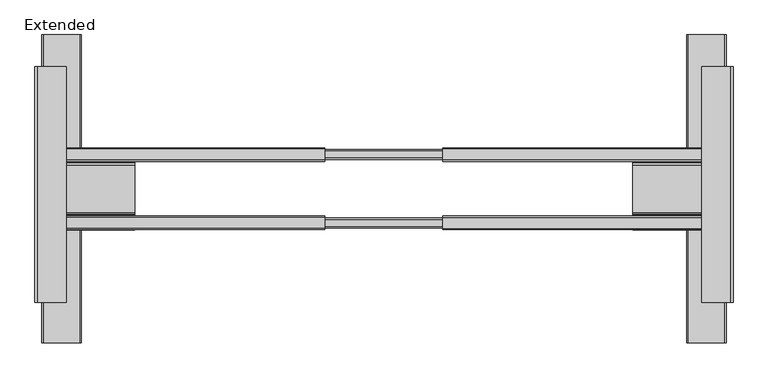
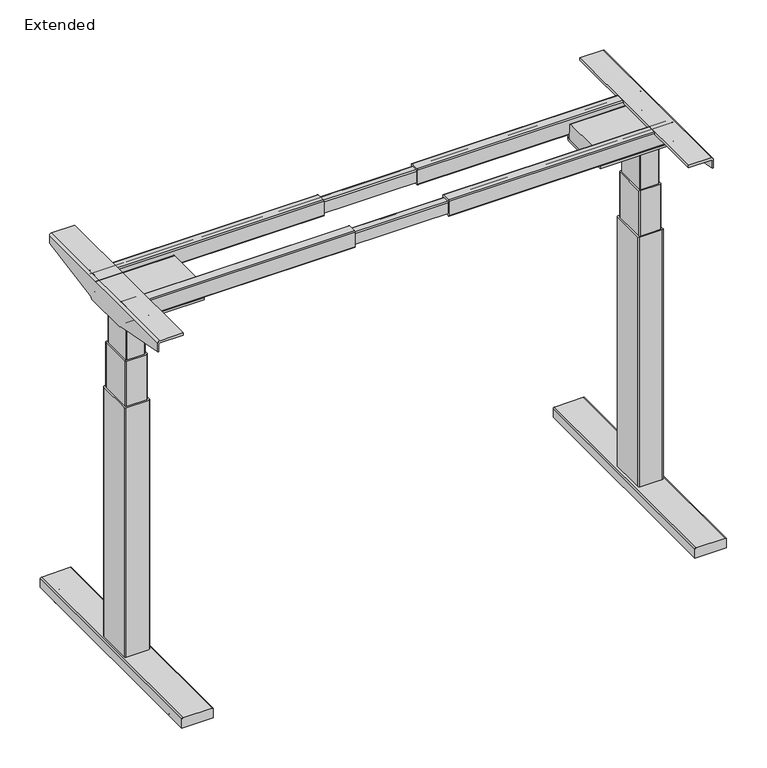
"""IFC4 building model written with IfcOpenShell, lengths in millimetres: furniture geometry, Steelcase Turnstone - Bivi - T Base : Extended."""

from ifc_helpers import new_model, si_unit, point, frame, frame_2d, origin, place, context, project, spatial, polyline, circle_curve, ellipse_curve, trimmed, segment, composite_curve, outline, extrude, source, transform, mapped, element, save
from ifc_brep_helpers import plane_surface, cylinder_surface, revolved_surface, advanced_brep


def extended_5e659e41(model_context):
    return source(origin(), model_context, "Body", "SolidModel", [
        advanced_brep(
        [(-784.3602029, -367.0453334, 0.0), (-784.3602029, -306.1296546, 0.0), (-784.3602029, -336.587494, 0.0), (-784.3602029, -369.0795363, 2.034203), (-784.3602029, -304.0954516, 2.034203), (-784.3602029, -369.0795363, 5.0424709), (-784.3602029, -304.0954516, 5.0424709), (-784.3602029, -367.0602461, 7.0617612), (-784.3602029, -306.1147418, 7.0617612), (-784.3602029, -344.1372514, 9.288914), (-784.3602029, -329.0377365, 9.288914), (-784.3602029, -336.587494, 9.288914)],
        [
            (0, 1, circle_curve(frame((-784.3602029, -336.587494, 0.0), z_axis=(0.0, 0.0, -1.0), x_axis=(0.0, 1.0, 0.0)), 30.4578394)),
            (1, 2),
            (2, 0),
            (1, 0, circle_curve(frame((-784.3602029, -336.587494, 0.0), z_axis=(0.0, 0.0, -1.0), x_axis=(0.0, 1.0, 0.0)), 30.4578394)),
            (3, 4, circle_curve(frame((-784.3602029, -336.587494, 2.034203), z_axis=(0.0, 0.0, -1.0), x_axis=(0.0, 1.0, 0.0)), 32.4920424)),
            (4, 1, circle_curve(frame((-784.3602029, -306.1296546, 2.034203), z_axis=(-1.0, 0.0, 0.0), x_axis=(0.0, 1.0, 0.0)), 2.034203)),
            (0, 3, circle_curve(frame((-784.3602029, -367.0453334, 2.034203), z_axis=(-1.0, 0.0, 0.0), x_axis=(0.0, -1.0, 0.0)), 2.034203)),
            (4, 3, circle_curve(frame((-784.3602029, -336.587494, 2.034203), z_axis=(0.0, 0.0, -1.0), x_axis=(0.0, 1.0, 0.0)), 32.4920424)),
            (5, 6, circle_curve(frame((-784.3602029, -336.587494, 5.0424709), z_axis=(0.0, 0.0, -1.0), x_axis=(0.0, 1.0, 0.0)), 32.4920424)),
            (6, 4),
            (3, 5),
            (6, 5, circle_curve(frame((-784.3602029, -336.587494, 5.0424709), z_axis=(0.0, 0.0, -1.0), x_axis=(0.0, 1.0, 0.0)), 32.4920424)),
            (7, 8, circle_curve(frame((-784.3602029, -336.587494, 7.0617612), z_axis=(0.0, 0.0, -1.0), x_axis=(0.0, 1.0, 0.0)), 30.4727521)),
            (8, 6, circle_curve(frame((-784.3602029, -306.1147418, 5.0424709), z_axis=(-1.0, 0.0, 0.0), x_axis=(0.0, 1.0, 0.0)), 2.0192902)),
            (5, 7, circle_curve(frame((-784.3602029, -367.0602461, 5.0424709), z_axis=(-1.0, 0.0, 0.0), x_axis=(0.0, -1.0, 0.0)), 2.0192902)),
            (8, 7, circle_curve(frame((-784.3602029, -336.587494, 7.0617612), z_axis=(0.0, 0.0, -1.0), x_axis=(0.0, 1.0, 0.0)), 30.4727521)),
            (9, 10, circle_curve(frame((-784.3602029, -336.587494, 9.288914), z_axis=(0.0, 0.0, -1.0), x_axis=(0.0, 1.0, 0.0)), 7.5497574)),
            (10, 8),
            (7, 9),
            (10, 9, circle_curve(frame((-784.3602029, -336.587494, 9.288914), z_axis=(0.0, 0.0, -1.0), x_axis=(0.0, 1.0, 0.0)), 7.5497574)),
            (11, 10),
            (9, 11),
        ],
        [
            plane_surface(frame((-784.3602029, -336.587494, 0.0), z_axis=(0.0, 0.0, -1.0), x_axis=(0.0, 1.0, 0.0))),
            revolved_surface(trimmed(ellipse_curve(frame((-784.3602029, -306.1296546, 2.034203), z_axis=(1.0, 0.0, 0.0), x_axis=(0.0, 1.0, 0.0)), 2.034203, 2.034203), [point((-784.3602029, -306.1296546, 0.0))], [point((-784.3602029, -304.0954516, 2.034203))], True, "CARTESIAN"), (-784.3602029, -336.587494, 13.4607192), (0.0, 0.0, 1.0)),
            cylinder_surface(frame((-784.3602029, -336.587494, 13.4607192), z_axis=(0.0, 0.0, 1.0), x_axis=(0.0, 1.0, 0.0)), 32.4920424),
            revolved_surface(trimmed(ellipse_curve(frame((-784.3602029, -306.1147418, 5.0424709), z_axis=(1.0, 0.0, 0.0), x_axis=(0.0, 1.0, 0.0)), 2.0192902, 2.0192902), [point((-784.3602029, -304.0954516, 5.0424709))], [point((-784.3602029, -306.1147418, 7.0617612))], True, "CARTESIAN"), (-784.3602029, -336.587494, 13.4607192), (0.0, 0.0, 1.0)),
            revolved_surface(polyline([(-784.3602029, -306.1147418, 7.0617612), (-784.3602029, -329.0377365, 9.288914)]), (-784.3602029, -336.587494, 13.4607192), (0.0, 0.0, 1.0)),
            plane_surface(frame((-784.3602029, -336.587494, 9.288914), z_axis=(0.0, 0.0, 1.0), x_axis=(0.0, 1.0, 0.0))),
        ],
        [
            (0, [[1, 2, 3]]),
            (0, [[4, -3, -2]]),
            (1, [[5, 6, -1, 7]]),
            (1, [[8, -7, -4, -6]]),
            (2, [[9, 10, -5, 11]]),
            (2, [[12, -11, -8, -10]]),
            (3, [[13, 14, -9, 15]]),
            (3, [[16, -15, -12, -14]]),
            (4, [[17, 18, -13, 19]]),
            (4, [[20, -19, -16, -18]]),
            (5, [[21, -17, 22]]),
            (5, [[-22, -20, -21]]),
        ],
    ),
        advanced_brep(
        [(487.1774973, -158.2325705, 884.5459466), (489.6911807, -158.2325705, 884.5459466), (489.6911807, -313.1690409, 913.2690634), (487.1774973, -313.1690409, 913.2690634), (487.1774973, -154.5901123, 880.9034885), (489.6911807, -154.5901123, 880.9034885), (487.1774973, -37.2242924, 884.5459466), (489.6911807, -37.2242924, 884.5459466), (489.6911807, -40.8667505, 880.9034885), (487.1774973, -40.8667505, 880.9034885), (487.1774973, 133.8680014, 916.2641336), (489.6911807, 133.8680014, 916.2641336), (489.6911807, -313.1690409, 934.9424174), (484.4335981, -313.1690409, 940.2), (430.0244146, -313.1690409, 940.2), (430.0244146, -313.1690409, 934.1136941), (484.4335981, -313.1690409, 934.1136941), (487.1774973, -313.1690409, 931.3697948), (487.1774973, 133.8680014, 931.3697948), (484.4335981, 133.8680014, 934.1136941), (430.0244146, 133.8680014, 934.1136941), (430.0244146, 133.8680014, 940.2), (484.4335981, 133.8680014, 940.2), (489.6911807, 133.8680014, 934.9424174)],
        [
            (0, 1),
            (1, 2),
            (2, 3),
            (3, 0),
            (0, 4),
            (4, 5),
            (5, 1),
            (6, 7),
            (7, 8),
            (8, 9),
            (9, 6),
            (6, 10),
            (10, 11),
            (11, 7),
            (12, 13, circle_curve(frame((484.4335981, -313.1690409, 934.9424174), z_axis=(0.0, -1.0, 0.0), x_axis=(-1.0, 0.0, 0.0)), 5.2575826)),
            (13, 14),
            (14, 15),
            (15, 16),
            (16, 17, circle_curve(frame((484.4335981, -313.1690409, 931.3697948), z_axis=(0.0, 1.0, 0.0), x_axis=(-1.0, 0.0, 0.0)), 2.7438992)),
            (17, 3),
            (2, 12),
            (18, 19, circle_curve(frame((484.4335981, 133.8680014, 931.3697948), z_axis=(0.0, -1.0, 0.0), x_axis=(-1.0, 0.0, 0.0)), 2.7438992)),
            (19, 20),
            (20, 21),
            (21, 22),
            (22, 23, circle_curve(frame((484.4335981, 133.8680014, 934.9424174), z_axis=(0.0, 1.0, 0.0), x_axis=(-1.0, 0.0, 0.0)), 5.2575826)),
            (23, 11),
            (10, 18),
            (17, 18),
            (9, 4),
            (16, 19),
            (15, 20),
            (14, 21),
            (13, 22),
            (12, 23),
            (5, 8),
        ],
        [
            plane_surface(frame((907.5476074, -158.2325705, 884.5459466), z_axis=(0.0, -0.1822805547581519, -0.9832465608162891), x_axis=(-1.0, 0.0, 0.0))),
            plane_surface(frame((907.5476074, -152.8866238, 879.2), z_axis=(0.0, -0.7071067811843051, -0.70710678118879), x_axis=(-1.0, 0.0, 0.0))),
            plane_surface(frame((907.5476074, -37.2242924, 884.5459466), z_axis=(0.0, 0.7071067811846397, -0.7071067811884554), x_axis=(-1.0, 0.0, 0.0))),
            plane_surface(frame((907.5476074, 190.3320215, 926.7317958), z_axis=(0.0, 0.18228055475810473, -0.9832465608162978), x_axis=(-1.0, 0.0, 0.0))),
            plane_surface(frame((489.6911807, -313.1690409, 880.9034885), z_axis=(0.0, -1.0, 0.0), x_axis=(1.0, 0.0, 0.0))),
            plane_surface(frame((489.6911807, 133.8680014, 880.9034885), z_axis=(0.0, 1.0, 0.0), x_axis=(-1.0, 0.0, 0.0))),
            plane_surface(frame((487.1774973, -313.1690409, 931.3697948), z_axis=(-1.0, 0.0, 0.0), x_axis=(0.0, 1.0, 0.0))),
            revolved_surface(polyline([(481.6896989, 133.8680014, 931.3697948), (481.6896989, -313.1690409, 931.3697948)]), (484.4335981, 133.8680014, 931.3697948), (0.0, 1.0, 0.0)),
            plane_surface(frame((430.0244146, -313.1690409, 934.1136941), z_axis=(1.5225248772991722e-12, 0.0, -1.0), x_axis=(0.0, 1.0, 0.0))),
            plane_surface(frame((430.0244146, -313.1690409, 940.2), z_axis=(-1.0, 0.0, 0.0), x_axis=(0.0, 1.0, 0.0))),
            plane_surface(frame((484.4335981, -313.1690409, 940.2), z_axis=(0.0, 0.0, 1.0), x_axis=(0.0, 1.0, 0.0))),
            cylinder_surface(frame((484.4335981, 133.8680014, 934.9424174), z_axis=(0.0, -1.0, 0.0), x_axis=(-1.0, 0.0, 0.0)), 5.2575826),
            plane_surface(frame((489.6911807, -313.1690409, 880.9034885), z_axis=(1.0, 0.0, 0.0), x_axis=(0.0, 1.0, 0.0))),
            plane_surface(frame((487.1774973, -313.1690409, 880.9034885), z_axis=(0.0, 0.0, -1.0), x_axis=(0.0, 1.0, 0.0))),
        ],
        [
            (0, [[1, 2, 3, 4]]),
            (1, [[-1, 5, 6, 7]]),
            (2, [[8, 9, 10, 11]]),
            (3, [[-8, 12, 13, 14]]),
            (4, [[15, 16, 17, 18, 19, 20, -3, 21]]),
            (5, [[22, 23, 24, 25, 26, 27, -13, 28]]),
            (6, [[29, -28, -12, -11, 30, -5, -4, -20]]),
            (7, [[-19, 31, -22, -29]]),
            (8, [[-18, 32, -23, -31]]),
            (9, [[-17, 33, -24, -32]]),
            (10, [[-16, 34, -25, -33]]),
            (11, [[-15, 35, -26, -34]]),
            (12, [[-35, -21, -2, -7, 36, -9, -14, -27]]),
            (13, [[-36, -6, -30, -10]]),
        ],
    ),
        advanced_brep(
        [(-831.5731206, -313.1690409, 931.3697948), (-828.8292213, -313.1690409, 934.1136941), (-774.1919689, -313.1690409, 934.1136941), (-774.1919689, -313.1690409, 940.2), (-828.6145206, -313.1690409, 940.2), (-833.8721032, -313.1690409, 934.9424174), (-833.8721032, -313.1690409, 913.2690634), (-831.5731206, -313.1690409, 913.2690634), (-833.8721032, 133.8680014, 934.9424174), (-828.6145206, 133.8680014, 940.2), (-774.1919689, 133.8680014, 940.2), (-774.1919689, 133.8680014, 934.1136941), (-828.8292213, 133.8680014, 934.1136941), (-831.5731206, 133.8680014, 931.3697948), (-831.5731206, 133.8680014, 916.2641336), (-833.8721032, 133.8680014, 916.2641336), (-831.5731206, -158.2325705, 884.5459466), (-831.5731206, -154.5901123, 880.9034885), (-831.5731206, -40.8667505, 880.9034885), (-831.5731206, -37.2242924, 884.5459466), (-833.8721032, -37.2242924, 884.5459466), (-833.8721032, -40.8667505, 880.9034885), (-833.8721032, -154.5901123, 880.9034885), (-833.8721032, -158.2325705, 884.5459466)],
        [
            (0, 1, circle_curve(frame((-828.8292213, -313.1690409, 931.3697948), z_axis=(0.0, 1.0, 0.0), x_axis=(1.0, 0.0, 0.0)), 2.7438992)),
            (1, 2),
            (2, 3),
            (3, 4),
            (4, 5, circle_curve(frame((-828.6145206, -313.1690409, 934.9424174), z_axis=(0.0, -1.0, 0.0), x_axis=(1.0, 0.0, 0.0)), 5.2575826)),
            (5, 6),
            (6, 7),
            (7, 0),
            (8, 9, circle_curve(frame((-828.6145206, 133.8680014, 934.9424174), z_axis=(0.0, 1.0, 0.0), x_axis=(1.0, 0.0, 0.0)), 5.2575826)),
            (9, 10),
            (10, 11),
            (11, 12),
            (12, 13, circle_curve(frame((-828.8292213, 133.8680014, 931.3697948), z_axis=(0.0, -1.0, 0.0), x_axis=(1.0, 0.0, 0.0)), 2.7438992)),
            (13, 14),
            (14, 15),
            (15, 8),
            (13, 0),
            (7, 16),
            (16, 17),
            (17, 18),
            (18, 19),
            (19, 14),
            (12, 1),
            (11, 2),
            (10, 3),
            (9, 4),
            (8, 5),
            (15, 20),
            (20, 21),
            (21, 22),
            (22, 23),
            (23, 6),
            (17, 22),
            (21, 18),
            (23, 16),
            (20, 19),
        ],
        [
            plane_surface(frame((-831.5731206, -313.1690409, 931.3697948), z_axis=(0.0, -1.0, 0.0), x_axis=(0.0, 0.0, 1.0))),
            plane_surface(frame((-831.5731206, 133.8680014, 931.3697948), z_axis=(0.0, 1.0, 0.0), x_axis=(0.0, 0.0, -1.0))),
            plane_surface(frame((-831.5731206, -313.1690409, 880.9034885), z_axis=(1.0, 0.0, 0.0), x_axis=(0.0, 1.0, 0.0))),
            revolved_surface(polyline([(-826.0853221, 133.8680014, 931.3697948), (-826.0853221, -313.1690409, 931.3697948)]), (-828.8292213, 133.8680014, 931.3697948), (0.0, 1.0, 0.0)),
            plane_surface(frame((-828.8292213, -313.1690409, 934.1136941), z_axis=(0.0, 0.0, -1.0), x_axis=(0.0, 1.0, 0.0))),
            plane_surface(frame((-774.1919689, -313.1690409, 934.1136941), z_axis=(1.0, 0.0, 0.0), x_axis=(0.0, 1.0, 0.0))),
            plane_surface(frame((-774.1919689, -313.1690409, 940.2), z_axis=(0.0, 0.0, 1.0), x_axis=(0.0, 1.0, 0.0))),
            cylinder_surface(frame((-828.6145206, 133.8680014, 934.9424174), z_axis=(0.0, -1.0, 0.0), x_axis=(1.0, 0.0, 0.0)), 5.2575826),
            plane_surface(frame((-833.8721032, -313.1690409, 934.9424174), z_axis=(-1.0, 0.0, 0.0), x_axis=(0.0, 1.0, 0.0))),
            plane_surface(frame((-833.8721032, -313.1690409, 880.9034885), z_axis=(0.0, 0.0, -1.0), x_axis=(0.0, 1.0, 0.0))),
            plane_surface(frame((-919.995801, -385.7888843, 926.7317958), z_axis=(0.0, -0.18228055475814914, -0.9832465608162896), x_axis=(1.0, 0.0, 0.0))),
            plane_surface(frame((-919.995801, -158.2325705, 884.5459466), z_axis=(0.0, -0.707106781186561, -0.7071067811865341), x_axis=(1.0, 0.0, 0.0))),
            plane_surface(frame((-919.995801, -42.570239, 879.2), z_axis=(0.0, 0.7071067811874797, -0.7071067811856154), x_axis=(1.0, 0.0, 0.0))),
            plane_surface(frame((-919.995801, -37.2242924, 884.5459466), z_axis=(0.0, 0.18228055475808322, -0.9832465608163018), x_axis=(1.0, 0.0, 0.0))),
        ],
        [
            (0, [[1, 2, 3, 4, 5, 6, 7, 8]]),
            (1, [[9, 10, 11, 12, 13, 14, 15, 16]]),
            (2, [[17, -8, 18, 19, 20, 21, 22, -14]]),
            (3, [[-1, -17, -13, 23]]),
            (4, [[-2, -23, -12, 24]]),
            (5, [[-3, -24, -11, 25]]),
            (6, [[-4, -25, -10, 26]]),
            (7, [[-5, -26, -9, 27]]),
            (8, [[-27, -16, 28, 29, 30, 31, 32, -6]]),
            (9, [[-20, 33, -30, 34]]),
            (10, [[35, -18, -7, -32]]),
            (11, [[-35, -31, -33, -19]]),
            (12, [[36, -21, -34, -29]]),
            (13, [[-36, -28, -15, -22]]),
        ],
    ),
        extrude(outline(composite_curve([segment(polyline([(7.9650038, 401.5137802), (7.9650038, 476.5881849), (30.0204767, 476.5881849)]), True, "CONTINUOUS"), segment(trimmed(circle_curve(frame_2d((30.0204767, 473.6075777)), 2.9806072), [point((30.0204767, 476.5881849))], [point((33.0010839, 473.6075777))], False, "CARTESIAN"), True, "CONTINUOUS"), segment(polyline([(33.0010839, 473.6075777), (33.0010839, 404.6842027)]), True, "CONTINUOUS"), segment(trimmed(circle_curve(frame_2d((29.8306613, 404.6842027)), 3.1704226), [point((33.0010839, 404.6842027))], [point((29.8306613, 401.5137802))], False, "CARTESIAN"), True, "CONTINUOUS"), segment(polyline([(29.8306613, 401.5137802), (7.9650038, 401.5137802)]), True, "CONTINUOUS")], self_intersect=False)), frame((0.0, -389.6490853, 0.0), z_axis=(0.0, 1.0, 0.0), x_axis=(0.0, 0.0, 1.0)), (0.0, 0.0, 1.0), 584.2),
        extrude(outline(composite_curve([segment(polyline([(7.9650038, -745.954186), (29.8306613, -745.954186)]), True, "CONTINUOUS"), segment(trimmed(circle_curve(frame_2d((29.8306613, -749.1246086)), 3.1704226), [point((29.8306613, -745.954186))], [point((33.0010839, -749.1246086))], False, "CARTESIAN"), True, "CONTINUOUS"), segment(polyline([(33.0010839, -749.1246086), (33.0010839, -818.0479836)]), True, "CONTINUOUS"), segment(trimmed(circle_curve(frame_2d((30.0204767, -818.0479836)), 2.9806072), [point((33.0010839, -818.0479836))], [point((30.0204767, -821.0285908))], False, "CARTESIAN"), True, "CONTINUOUS"), segment(polyline([(30.0204767, -821.0285908), (7.9650038, -821.0285908), (7.9650038, -745.954186)]), True, "CONTINUOUS")], self_intersect=False)), frame((0.0, -389.6490853, 0.0), z_axis=(0.0, 1.0, 0.0), x_axis=(0.0, 0.0, 1.0)), (0.0, 0.0, 1.0), 584.2),
        extrude(outline(composite_curve([segment(trimmed(circle_curve(frame_2d((-22.6846088, 902.2247064)), 2.54), [point((-20.1446088, 902.2247064))], [point((-22.6846088, 899.6847064))], False, "CARTESIAN"), True, "CONTINUOUS"), segment(polyline([(-22.6846088, 899.6847064), (-43.0735084, 899.6847064)]), True, "CONTINUOUS"), segment(trimmed(circle_curve(frame_2d((-43.0735084, 902.1558068)), 2.4711004), [point((-43.0735084, 899.6847064))], [point((-45.5446088, 902.1558068))], False, "CARTESIAN"), True, "CONTINUOUS"), segment(polyline([(-45.5446088, 902.1558068), (-45.5446088, 937.697389)]), True, "CONTINUOUS"), segment(trimmed(circle_curve(frame_2d((-43.0419978, 937.697389)), 2.502611), [point((-45.5446088, 937.697389))], [point((-43.0419978, 940.2))], False, "CARTESIAN"), True, "CONTINUOUS"), segment(polyline([(-43.0419978, 940.2), (-22.5036523, 940.2)]), True, "CONTINUOUS"), segment(trimmed(circle_curve(frame_2d((-22.5036523, 937.8409564)), 2.3590436), [point((-22.5036523, 940.2))], [point((-20.1446088, 937.8409564))], False, "CARTESIAN"), True, "CONTINUOUS"), segment(polyline([(-20.1446088, 937.8409564), (-20.1446088, 902.2247064)]), True, "CONTINUOUS")], self_intersect=False)), frame((-60.4602029, 0.0, 0.0), z_axis=(1.0, 0.0, 0.0), x_axis=(0.0, 1.0, 0.0)), (0.0, 0.0, 1.0), 537.0483879),
        extrude(outline(composite_curve([segment(polyline([(-175.0303912, 902.2247064), (-175.0303912, 937.8409564)]), True, "CONTINUOUS"), segment(trimmed(circle_curve(frame_2d((-172.6713476, 937.8409564)), 2.3590436), [point((-175.0303912, 937.8409564))], [point((-172.6713476, 940.2))], False, "CARTESIAN"), True, "CONTINUOUS"), segment(polyline([(-172.6713476, 940.2), (-152.1330021, 940.2)]), True, "CONTINUOUS"), segment(trimmed(circle_curve(frame_2d((-152.1330021, 937.697389)), 2.502611), [point((-152.1330021, 940.2))], [point((-149.6303912, 937.697389))], False, "CARTESIAN"), True, "CONTINUOUS"), segment(polyline([(-149.6303912, 937.697389), (-149.6303912, 902.1558068)]), True, "CONTINUOUS"), segment(trimmed(circle_curve(frame_2d((-152.1014916, 902.1558068)), 2.4711004), [point((-149.6303912, 902.1558068))], [point((-152.1014916, 899.6847064))], False, "CARTESIAN"), True, "CONTINUOUS"), segment(polyline([(-152.1014916, 899.6847064), (-172.4903912, 899.6847064)]), True, "CONTINUOUS"), segment(trimmed(circle_curve(frame_2d((-172.4903912, 902.2247064)), 2.54), [point((-172.4903912, 899.6847064))], [point((-175.0303912, 902.2247064))], False, "CARTESIAN"), True, "CONTINUOUS")], self_intersect=False)), frame((-60.4602029, 0.0, 0.0), z_axis=(1.0, 0.0, 0.0), x_axis=(0.0, 1.0, 0.0)), (0.0, 0.0, 1.0), 537.0483879),
        extrude(outline(composite_curve([segment(polyline([(-41.1510404, 894.5696117), (-42.2051171, 888.822656)]), True, "CONTINUOUS"), segment(trimmed(circle_curve(frame_2d((-47.3092607, 889.7588315)), 5.1892877), [point((-42.2051171, 888.822656))], [point((-47.3092607, 884.5695438))], False, "CARTESIAN"), True, "CONTINUOUS"), segment(polyline([(-47.3092607, 884.5695438), (-148.1476021, 884.5695438)]), True, "CONTINUOUS"), segment(trimmed(circle_curve(frame_2d((-148.1476021, 889.7588315)), 5.1892877), [point((-148.1476021, 884.5695438))], [point((-153.2517457, 888.822656))], False, "CARTESIAN"), True, "CONTINUOUS"), segment(polyline([(-153.2517457, 888.822656), (-154.3058224, 894.5696117), (-175.3056356, 894.5696117), (-175.3056356, 899.6847064), (-154.8075486, 899.6847064)]), True, "CONTINUOUS"), segment(trimmed(circle_curve(frame_2d((-154.8075486, 894.1079909)), 5.5767155), [point((-154.8075486, 899.6847064))], [point((-149.3222025, 895.1133434))], False, "CARTESIAN"), True, "CONTINUOUS"), segment(polyline([(-149.3222025, 895.1133434), (-148.3061517, 889.5696262), (-47.7075617, 889.5696262), (-46.6915109, 895.1133434)]), True, "CONTINUOUS"), segment(trimmed(circle_curve(frame_2d((-41.2061648, 894.1079909)), 5.5767155), [point((-46.6915109, 895.1133434))], [point((-41.2061648, 899.6847064))], False, "CARTESIAN"), True, "CONTINUOUS"), segment(polyline([(-41.2061648, 899.6847064), (-20.3067633, 899.6847064), (-20.3067633, 894.5696117), (-41.1510404, 894.5696117)]), True, "CONTINUOUS")], self_intersect=False)), frame((299.8031648, 0.0, 0.0), z_axis=(1.0, 0.0, 0.0), x_axis=(0.0, 1.0, 0.0)), (0.0, 0.0, 1.0), 184.6304333),
        extrude(outline(composite_curve([segment(polyline([(-49.146017, 927.8927128), (-47.8070711, 889.5696262), (-147.8056669, 889.5696262), (-146.4667677, 927.8927082)]), True, "CONTINUOUS"), segment(trimmed(circle_curve(frame_2d((-142.6590908, 927.7596788)), 3.81), [point((-146.4667677, 927.8927082))], [point((-142.6590908, 931.5696788))], False, "CARTESIAN"), True, "CONTINUOUS"), segment(polyline([(-142.6590908, 931.5696788), (-52.9536937, 931.5696788)]), True, "CONTINUOUS"), segment(trimmed(circle_curve(frame_2d((-52.9536937, 927.7596788)), 3.81), [point((-52.9536937, 931.5696788))], [point((-49.146017, 927.8927128))], False, "CARTESIAN"), True, "CONTINUOUS")], self_intersect=False)), frame((299.8031648, 0.0, 0.0), z_axis=(1.0, 0.0, 0.0), x_axis=(0.0, 1.0, 0.0)), (0.0, 0.0, 1.0), 184.6304333),
        extrude(outline(composite_curve([segment(polyline([(-49.146017, 927.8927128), (-47.8070711, 889.5696262), (-147.8056669, 889.5696262), (-146.4667677, 927.8927082)]), True, "CONTINUOUS"), segment(trimmed(circle_curve(frame_2d((-142.6590908, 927.7596788)), 3.81), [point((-146.4667677, 927.8927082))], [point((-142.6590908, 931.5696788))], False, "CARTESIAN"), True, "CONTINUOUS"), segment(polyline([(-142.6590908, 931.5696788), (-52.9536937, 931.5696788)]), True, "CONTINUOUS"), segment(trimmed(circle_curve(frame_2d((-52.9536937, 927.7596788)), 3.81), [point((-52.9536937, 931.5696788))], [point((-49.146017, 927.8927128))], False, "CARTESIAN"), True, "CONTINUOUS")], self_intersect=False)), frame((-828.874004, 0.0, 0.0), z_axis=(1.0, 0.0, 0.0), x_axis=(0.0, 1.0, 0.0)), (0.0, 0.0, 1.0), 184.6304333),
        extrude(outline(composite_curve([segment(trimmed(circle_curve(frame_2d((-22.6461941, 902.2247064)), 2.54), [point((-20.1061941, 902.2247064))], [point((-22.6461941, 899.6847064))], False, "CARTESIAN"), True, "CONTINUOUS"), segment(polyline([(-22.6461941, 899.6847064), (-43.0350937, 899.6847064)]), True, "CONTINUOUS"), segment(trimmed(circle_curve(frame_2d((-43.0350937, 902.1558068)), 2.4711004), [point((-43.0350937, 899.6847064))], [point((-45.5061941, 902.1558068))], False, "CARTESIAN"), True, "CONTINUOUS"), segment(polyline([(-45.5061941, 902.1558068), (-45.5061941, 937.697389)]), True, "CONTINUOUS"), segment(trimmed(circle_curve(frame_2d((-43.0035831, 937.697389)), 2.502611), [point((-45.5061941, 937.697389))], [point((-43.0035831, 940.2))], False, "CARTESIAN"), True, "CONTINUOUS"), segment(polyline([(-43.0035831, 940.2), (-22.4652377, 940.2)]), True, "CONTINUOUS"), segment(trimmed(circle_curve(frame_2d((-22.4652377, 937.8409564)), 2.3590436), [point((-22.4652377, 940.2))], [point((-20.1061941, 937.8409564))], False, "CARTESIAN"), True, "CONTINUOUS"), segment(polyline([(-20.1061941, 937.8409564), (-20.1061941, 902.2247064)]), True, "CONTINUOUS")], self_intersect=False)), frame((-828.874004, 0.0, 0.0), z_axis=(1.0, 0.0, 0.0), x_axis=(0.0, 1.0, 0.0)), (0.0, 0.0, 1.0), 544.893801),
        extrude(outline(composite_curve([segment(polyline([(-174.9919765, 902.2247064), (-174.9919765, 937.8409564)]), True, "CONTINUOUS"), segment(trimmed(circle_curve(frame_2d((-172.6329329, 937.8409564)), 2.3590436), [point((-174.9919765, 937.8409564))], [point((-172.6329329, 940.2))], False, "CARTESIAN"), True, "CONTINUOUS"), segment(polyline([(-172.6329329, 940.2), (-152.0945875, 940.2)]), True, "CONTINUOUS"), segment(trimmed(circle_curve(frame_2d((-152.0945875, 937.697389)), 2.502611), [point((-152.0945875, 940.2))], [point((-149.5919765, 937.697389))], False, "CARTESIAN"), True, "CONTINUOUS"), segment(polyline([(-149.5919765, 937.697389), (-149.5919765, 902.1558068)]), True, "CONTINUOUS"), segment(trimmed(circle_curve(frame_2d((-152.0630769, 902.1558068)), 2.4711004), [point((-149.5919765, 902.1558068))], [point((-152.0630769, 899.6847064))], False, "CARTESIAN"), True, "CONTINUOUS"), segment(polyline([(-152.0630769, 899.6847064), (-172.4519765, 899.6847064)]), True, "CONTINUOUS"), segment(trimmed(circle_curve(frame_2d((-172.4519765, 902.2247064)), 2.54), [point((-172.4519765, 899.6847064))], [point((-174.9919765, 902.2247064))], False, "CARTESIAN"), True, "CONTINUOUS")], self_intersect=False)), frame((-828.874004, 0.0, 0.0), z_axis=(1.0, 0.0, 0.0), x_axis=(0.0, 1.0, 0.0)), (0.0, 0.0, 1.0), 544.893801),
        extrude(outline(composite_curve([segment(polyline([(-25.1062849, 905.0695037), (-25.1062849, 933.1113189)]), True, "CONTINUOUS"), segment(trimmed(circle_curve(frame_2d((-25.6644682, 933.1113189)), 0.5581833), [point((-25.1062849, 933.1113189))], [point((-25.6644682, 933.6695022))], True, "CARTESIAN"), True, "CONTINUOUS"), segment(polyline([(-25.6644682, 933.6695022), (-39.9437245, 933.6695022)]), True, "CONTINUOUS"), segment(trimmed(circle_curve(frame_2d((-39.9437245, 933.1073353)), 0.5621669), [point((-39.9437245, 933.6695022))], [point((-40.5058914, 933.1073353))], True, "CARTESIAN"), True, "CONTINUOUS"), segment(polyline([(-40.5058914, 933.1073353), (-40.5058914, 905.0695037), (-42.5060407, 905.0695037), (-42.5060407, 932.4257358)]), True, "CONTINUOUS"), segment(trimmed(circle_curve(frame_2d((-39.2622994, 932.4257358)), 3.2437412), [point((-42.5060407, 932.4257358))], [point((-39.2622994, 935.669477))], False, "CARTESIAN"), True, "CONTINUOUS"), segment(polyline([(-39.2622994, 935.669477), (-26.0748444, 935.669477)]), True, "CONTINUOUS"), segment(trimmed(circle_curve(frame_2d((-26.0748444, 932.7010338)), 2.9684433), [point((-26.0748444, 935.669477))], [point((-23.1064012, 932.7010338))], False, "CARTESIAN"), True, "CONTINUOUS"), segment(polyline([(-23.1064012, 932.7010338), (-23.1064012, 905.0695037), (-25.1062849, 905.0695037)]), True, "CONTINUOUS")], self_intersect=False)), frame((-828.874004, 0.0, 0.0), z_axis=(1.0, 0.0, 0.0), x_axis=(0.0, 1.0, 0.0)), (0.0, 0.0, 1.0), 1313.3076021),
        extrude(outline(composite_curve([segment(polyline([(-169.9918857, 905.0695037), (-171.9917694, 905.0695037), (-171.9917694, 932.7010338)]), True, "CONTINUOUS"), segment(trimmed(circle_curve(frame_2d((-169.0233262, 932.7010338)), 2.9684433), [point((-171.9917694, 932.7010338))], [point((-169.0233262, 935.669477))], False, "CARTESIAN"), True, "CONTINUOUS"), segment(polyline([(-169.0233262, 935.669477), (-155.8358712, 935.669477)]), True, "CONTINUOUS"), segment(trimmed(circle_curve(frame_2d((-155.8358712, 932.4257358)), 3.2437412), [point((-155.8358712, 935.669477))], [point((-152.5921299, 932.4257358))], False, "CARTESIAN"), True, "CONTINUOUS"), segment(polyline([(-152.5921299, 932.4257358), (-152.5921299, 905.0695037), (-154.5922792, 905.0695037), (-154.5922792, 933.1073353)]), True, "CONTINUOUS"), segment(trimmed(circle_curve(frame_2d((-155.1544461, 933.1073353)), 0.5621669), [point((-154.5922792, 933.1073353))], [point((-155.1544461, 933.6695022))], True, "CARTESIAN"), True, "CONTINUOUS"), segment(polyline([(-155.1544461, 933.6695022), (-169.4337024, 933.6695022)]), True, "CONTINUOUS"), segment(trimmed(circle_curve(frame_2d((-169.4337024, 933.1113189)), 0.5581833), [point((-169.4337024, 933.6695022))], [point((-169.9918857, 933.1113189))], True, "CARTESIAN"), True, "CONTINUOUS"), segment(polyline([(-169.9918857, 933.1113189), (-169.9918857, 905.0695037)]), True, "CONTINUOUS")], self_intersect=False)), frame((-828.874004, 0.0, 0.0), z_axis=(1.0, 0.0, 0.0), x_axis=(0.0, 1.0, 0.0)), (0.0, 0.0, 1.0), 1313.3076021),
        advanced_brep(
        [(-784.3602029, 141.4893234, 0.0), (-784.3602029, 111.031484, 0.0), (-784.3602029, 171.9471628, 0.0), (-784.3602029, 108.997281, 2.034203), (-784.3602029, 173.9813657, 2.034203), (-784.3602029, 108.997281, 5.0424709), (-784.3602029, 173.9813657, 5.0424709), (-784.3602029, 111.0165712, 7.0617612), (-784.3602029, 171.9620755, 7.0617612), (-784.3602029, 133.9395659, 9.288914), (-784.3602029, 149.0390808, 9.288914), (-784.3602029, 141.4893234, 9.288914)],
        [
            (0, 1),
            (1, 2, circle_curve(frame((-784.3602029, 141.4893234, 0.0), z_axis=(0.0, 0.0, -1.0), x_axis=(0.0, -1.0, 0.0)), 30.4578394)),
            (2, 0),
            (2, 1, circle_curve(frame((-784.3602029, 141.4893234, 0.0), z_axis=(0.0, 0.0, -1.0), x_axis=(0.0, -1.0, 0.0)), 30.4578394)),
            (1, 3, circle_curve(frame((-784.3602029, 111.031484, 2.034203), z_axis=(-1.0, 0.0, 0.0), x_axis=(0.0, -1.0, 0.0)), 2.034203)),
            (3, 4, circle_curve(frame((-784.3602029, 141.4893234, 2.034203), z_axis=(0.0, 0.0, -1.0), x_axis=(0.0, -1.0, 0.0)), 32.4920424)),
            (4, 2, circle_curve(frame((-784.3602029, 171.9471628, 2.034203), z_axis=(-1.0, 0.0, 0.0), x_axis=(0.0, 1.0, 0.0)), 2.034203)),
            (4, 3, circle_curve(frame((-784.3602029, 141.4893234, 2.034203), z_axis=(0.0, 0.0, -1.0), x_axis=(0.0, -1.0, 0.0)), 32.4920424)),
            (3, 5),
            (5, 6, circle_curve(frame((-784.3602029, 141.4893234, 5.0424709), z_axis=(0.0, 0.0, -1.0), x_axis=(0.0, -1.0, 0.0)), 32.4920424)),
            (6, 4),
            (6, 5, circle_curve(frame((-784.3602029, 141.4893234, 5.0424709), z_axis=(0.0, 0.0, -1.0), x_axis=(0.0, -1.0, 0.0)), 32.4920424)),
            (5, 7, circle_curve(frame((-784.3602029, 111.0165712, 5.0424709), z_axis=(-1.0, 0.0, 0.0), x_axis=(0.0, -1.0, 0.0)), 2.0192902)),
            (7, 8, circle_curve(frame((-784.3602029, 141.4893234, 7.0617612), z_axis=(0.0, 0.0, -1.0), x_axis=(0.0, -1.0, 0.0)), 30.4727521)),
            (8, 6, circle_curve(frame((-784.3602029, 171.9620755, 5.0424709), z_axis=(-1.0, 0.0, 0.0), x_axis=(0.0, 1.0, 0.0)), 2.0192902)),
            (8, 7, circle_curve(frame((-784.3602029, 141.4893234, 7.0617612), z_axis=(0.0, 0.0, -1.0), x_axis=(0.0, -1.0, 0.0)), 30.4727521)),
            (7, 9),
            (9, 10, circle_curve(frame((-784.3602029, 141.4893234, 9.288914), z_axis=(0.0, 0.0, -1.0), x_axis=(0.0, -1.0, 0.0)), 7.5497574)),
            (10, 8),
            (10, 9, circle_curve(frame((-784.3602029, 141.4893234, 9.288914), z_axis=(0.0, 0.0, -1.0), x_axis=(0.0, -1.0, 0.0)), 7.5497574)),
            (9, 11),
            (11, 10),
        ],
        [
            plane_surface(frame((-784.3602029, 141.4893234, 0.0), z_axis=(0.0, 0.0, -1.0), x_axis=(0.0, -1.0, 0.0))),
            revolved_surface(trimmed(ellipse_curve(frame((-784.3602029, 111.031484, 2.034203), z_axis=(1.0, 0.0, 0.0), x_axis=(0.0, -1.0, 0.0)), 2.034203, 2.034203), [point((-784.3602029, 108.997281, 2.034203))], [point((-784.3602029, 111.031484, 0.0))], True, "CARTESIAN"), (-784.3602029, 141.4893234, 13.4607192), (0.0, 0.0, -1.0)),
            cylinder_surface(frame((-784.3602029, 141.4893234, 13.4607192), z_axis=(0.0, 0.0, -1.0), x_axis=(0.0, -1.0, 0.0)), 32.4920424),
            revolved_surface(trimmed(ellipse_curve(frame((-784.3602029, 111.0165712, 5.0424709), z_axis=(1.0, 0.0, 0.0), x_axis=(0.0, -1.0, 0.0)), 2.0192902, 2.0192902), [point((-784.3602029, 111.0165712, 7.0617612))], [point((-784.3602029, 108.997281, 5.0424709))], True, "CARTESIAN"), (-784.3602029, 141.4893234, 13.4607192), (0.0, 0.0, -1.0)),
            revolved_surface(polyline([(-784.3602029, 133.9395659, 9.288914), (-784.3602029, 111.0165712, 7.0617612)]), (-784.3602029, 141.4893234, 13.4607192), (0.0, 0.0, -1.0)),
            plane_surface(frame((-784.3602029, 141.4893234, 9.288914), z_axis=(0.0, 0.0, 1.0), x_axis=(0.0, -1.0, 0.0))),
        ],
        [
            (0, [[1, 2, 3]]),
            (0, [[-3, 4, -1]]),
            (1, [[-2, 5, 6, 7]]),
            (1, [[-4, -7, 8, -5]]),
            (2, [[-6, 9, 10, 11]]),
            (2, [[-8, -11, 12, -9]]),
            (3, [[-10, 13, 14, 15]]),
            (3, [[-12, -15, 16, -13]]),
            (4, [[-14, 17, 18, 19]]),
            (4, [[-16, -19, 20, -17]]),
            (5, [[-18, 21, 22]]),
            (5, [[-20, -22, -21]]),
        ],
    ),
        extrude(outline(composite_curve([segment(polyline([(-41.1510404, 894.5696117), (-42.2051171, 888.822656)]), True, "CONTINUOUS"), segment(trimmed(circle_curve(frame_2d((-47.3092607, 889.7588315)), 5.1892877), [point((-42.2051171, 888.822656))], [point((-47.3092607, 884.5695438))], False, "CARTESIAN"), True, "CONTINUOUS"), segment(polyline([(-47.3092607, 884.5695438), (-148.1476021, 884.5695438)]), True, "CONTINUOUS"), segment(trimmed(circle_curve(frame_2d((-148.1476021, 889.7588315)), 5.1892877), [point((-148.1476021, 884.5695438))], [point((-153.2517457, 888.822656))], False, "CARTESIAN"), True, "CONTINUOUS"), segment(polyline([(-153.2517457, 888.822656), (-154.3058224, 894.5696117), (-175.3056356, 894.5696117), (-175.3056356, 899.6847064), (-154.8075486, 899.6847064)]), True, "CONTINUOUS"), segment(trimmed(circle_curve(frame_2d((-154.8075486, 894.1079909)), 5.5767155), [point((-154.8075486, 899.6847064))], [point((-149.3222025, 895.1133434))], False, "CARTESIAN"), True, "CONTINUOUS"), segment(polyline([(-149.3222025, 895.1133434), (-148.3061517, 889.5696262), (-47.7075617, 889.5696262), (-46.6915109, 895.1133434)]), True, "CONTINUOUS"), segment(trimmed(circle_curve(frame_2d((-41.2061648, 894.1079909)), 5.5767155), [point((-46.6915109, 895.1133434))], [point((-41.2061648, 899.6847064))], False, "CARTESIAN"), True, "CONTINUOUS"), segment(polyline([(-41.2061648, 899.6847064), (-20.3067633, 899.6847064), (-20.3067633, 894.5696117), (-41.1510404, 894.5696117)]), True, "CONTINUOUS")], self_intersect=False)), frame((-828.874004, 0.0, 0.0), z_axis=(1.0, 0.0, 0.0), x_axis=(0.0, 1.0, 0.0)), (0.0, 0.0, 1.0), 184.6304333),
        extrude(outline(composite_curve([segment(polyline([(463.0621968, -62.1261709), (463.0621968, -133.3890958)]), True, "CONTINUOUS"), segment(trimmed(circle_curve(frame_2d((460.645087, -133.3890958)), 2.4171098), [point((463.0621968, -133.3890958))], [point((460.645087, -135.8062055))], False, "CARTESIAN"), True, "CONTINUOUS"), segment(polyline([(460.645087, -135.8062055), (419.5471326, -135.8062055)]), True, "CONTINUOUS"), segment(trimmed(circle_curve(frame_2d((419.5471326, -133.3212674)), 2.4849381), [point((419.5471326, -135.8062055))], [point((417.0621945, -133.3212674))], False, "CARTESIAN"), True, "CONTINUOUS"), segment(polyline([(417.0621945, -133.3212674), (417.0621945, -62.2153199)]), True, "CONTINUOUS"), segment(trimmed(circle_curve(frame_2d((419.471321, -62.2153199)), 2.4091266), [point((417.0621945, -62.2153199))], [point((419.471321, -59.8061933))], False, "CARTESIAN"), True, "CONTINUOUS"), segment(polyline([(419.471321, -59.8061933), (460.7422192, -59.8061933)]), True, "CONTINUOUS"), segment(trimmed(circle_curve(frame_2d((460.7422192, -62.1261709)), 2.3199776), [point((460.7422192, -59.8061933))], [point((463.0621968, -62.1261709))], False, "CARTESIAN"), True, "CONTINUOUS")], self_intersect=False)), frame((0.0, 0.0, 775.6945033), z_axis=(0.0, 0.0, 1.0), x_axis=(1.0, 0.0, 0.0)), (0.0, 0.0, 1.0), 108.5061054),
        extrude(outline(composite_curve([segment(polyline([(466.442453, -58.7108708), (466.442453, -136.9014982)]), True, "CONTINUOUS"), segment(trimmed(circle_curve(frame_2d((464.0377655, -136.9014982)), 2.4046875), [point((466.442453, -136.9014982))], [point((464.0377655, -139.3061857))], False, "CARTESIAN"), True, "CONTINUOUS"), segment(polyline([(464.0377655, -139.3061857), (416.5622143, -139.3061857)]), True, "CONTINUOUS"), segment(trimmed(circle_curve(frame_2d((416.5622143, -136.3061857)), 3.0), [point((416.5622143, -139.3061857))], [point((413.5622143, -136.3061857))], False, "CARTESIAN"), True, "CONTINUOUS"), segment(polyline([(413.5622143, -136.3061857), (413.5622143, -59.3062026)]), True, "CONTINUOUS"), segment(trimmed(circle_curve(frame_2d((416.5622211, -59.3062026)), 3.0000068), [point((413.5622143, -59.3062026))], [point((416.5622181, -56.3061958))], False, "CARTESIAN"), True, "CONTINUOUS"), segment(polyline([(416.5622181, -56.3061958), (464.0377755, -56.3061958)]), True, "CONTINUOUS"), segment(trimmed(circle_curve(frame_2d((464.037778, -58.7108708)), 2.404675), [point((464.0377755, -56.3061958))], [point((466.442453, -58.7108708))], False, "CARTESIAN"), True, "CONTINUOUS")], self_intersect=False)), frame((0.0, 0.0, 661.8554248), z_axis=(0.0, 0.0, 1.0), x_axis=(1.0, 0.0, 0.0)), (0.0, 0.0, 1.0), 113.8390785),
        extrude(outline(composite_curve([segment(polyline([(-807.2431471, -133.4038687), (-807.2431471, -62.2000568)]), True, "CONTINUOUS"), segment(trimmed(circle_curve(frame_2d((-804.8492837, -62.2000568)), 2.3938634), [point((-807.2431471, -62.2000568))], [point((-804.8492837, -59.8061933))], False, "CARTESIAN"), True, "CONTINUOUS"), segment(polyline([(-804.8492837, -59.8061933), (-763.6268848, -59.8061933)]), True, "CONTINUOUS"), segment(trimmed(circle_curve(frame_2d((-763.6268848, -62.1899249)), 2.3837315), [point((-763.6268848, -59.8061933))], [point((-761.2431533, -62.1899249))], False, "CARTESIAN"), True, "CONTINUOUS"), segment(polyline([(-761.2431533, -62.1899249), (-761.2431533, -133.4581953)]), True, "CONTINUOUS"), segment(trimmed(circle_curve(frame_2d((-763.5911606, -133.4581953)), 2.3480073), [point((-761.2431533, -133.4581953))], [point((-763.5911606, -135.8062025))], False, "CARTESIAN"), True, "CONTINUOUS"), segment(polyline([(-763.5911606, -135.8062025), (-804.8408132, -135.8062025)]), True, "CONTINUOUS"), segment(trimmed(circle_curve(frame_2d((-804.8408132, -133.4038687)), 2.4023339), [point((-804.8408132, -135.8062025))], [point((-807.2431471, -133.4038687))], False, "CARTESIAN"), True, "CONTINUOUS")], self_intersect=False)), frame((0.0, 0.0, 775.6945033), z_axis=(0.0, 0.0, 1.0), x_axis=(1.0, 0.0, 0.0)), (0.0, 0.0, 1.0), 108.5061054),
        extrude(outline(composite_curve([segment(polyline([(-810.7348193, -136.2990875), (-810.7348193, -59.3062178)]), True, "CONTINUOUS"), segment(trimmed(circle_curve(frame_2d((-807.7348138, -59.3062186)), 3.0000054), [point((-810.7348193, -59.3062178))], [point((-807.7348138, -56.3062132))], False, "CARTESIAN"), True, "CONTINUOUS"), segment(polyline([(-807.7348138, -56.3062132), (-760.7431872, -56.3062132)]), True, "CONTINUOUS"), segment(trimmed(circle_curve(frame_2d((-760.7431872, -59.3062132)), 3.0), [point((-760.7431872, -56.3062132))], [point((-757.7431872, -59.3062146))], False, "CARTESIAN"), True, "CONTINUOUS"), segment(polyline([(-757.7431872, -59.3062146), (-757.7431872, -136.2990507)]), True, "CONTINUOUS"), segment(trimmed(circle_curve(frame_2d((-760.7432232, -136.2990493)), 3.000036), [point((-757.7431872, -136.2990507))], [point((-760.7432232, -139.2990853))], False, "CARTESIAN"), True, "CONTINUOUS"), segment(polyline([(-760.7432232, -139.2990853), (-807.7348222, -139.2990853)]), True, "CONTINUOUS"), segment(trimmed(circle_curve(frame_2d((-807.7348222, -136.2990883)), 2.999997), [point((-807.7348222, -139.2990853))], [point((-810.7348193, -136.2990875))], False, "CARTESIAN"), True, "CONTINUOUS")], self_intersect=False)), frame((0.0, 0.0, 661.8554248), z_axis=(0.0, 0.0, 1.0), x_axis=(1.0, 0.0, 0.0)), (0.0, 0.0, 1.0), 113.8390785),
        extrude(outline(composite_curve([segment(trimmed(circle_curve(frame_2d((466.9441449, -139.8062192)), 2.9999955), [point((469.9441404, -139.8062192))], [point((466.9441476, -142.8062147))], False, "CARTESIAN"), True, "CONTINUOUS"), segment(polyline([(466.9441476, -142.8062147), (413.0623335, -142.8062147)]), True, "CONTINUOUS"), segment(trimmed(circle_curve(frame_2d((413.0623308, -139.8062267)), 2.9999881), [point((413.0623335, -142.8062147))], [point((410.0623427, -139.8062267))], False, "CARTESIAN"), True, "CONTINUOUS"), segment(polyline([(410.0623427, -139.8062267), (410.0623427, -55.8062406)]), True, "CONTINUOUS"), segment(trimmed(circle_curve(frame_2d((413.0623507, -55.8062406)), 3.0000079), [point((410.0623427, -55.8062406))], [point((413.0623441, -52.8062327))], False, "CARTESIAN"), True, "CONTINUOUS"), segment(polyline([(413.0623441, -52.8062327), (466.944164, -52.8062327)]), True, "CONTINUOUS"), segment(trimmed(circle_curve(frame_2d((466.944164, -55.8062091)), 2.9999764), [point((466.944164, -52.8062327))], [point((469.9441404, -55.8062091))], False, "CARTESIAN"), True, "CONTINUOUS"), segment(polyline([(469.9441404, -55.8062091), (469.9441404, -139.8062192)]), True, "CONTINUOUS")], self_intersect=False)), frame((0.0, 0.0, 32.9997018), z_axis=(0.0, 0.0, 1.0), x_axis=(1.0, 0.0, 0.0)), (0.0, 0.0, 1.0), 628.855723),
        extrude(outline(composite_curve([segment(polyline([(-814.2431554, -140.2273439), (-814.2431508, -55.5044156)]), True, "CONTINUOUS"), segment(trimmed(circle_curve(frame_2d((-811.5449196, -55.5044158)), 2.6982312), [point((-814.2431508, -55.5044156))], [point((-811.5449196, -52.8061846))], False, "CARTESIAN"), True, "CONTINUOUS"), segment(polyline([(-811.5449196, -52.8061846), (-758.6162966, -52.8061846)]), True, "CONTINUOUS"), segment(trimmed(circle_curve(frame_2d((-758.6162966, -57.1799025)), 4.3737179), [point((-758.6162966, -52.8061846))], [point((-754.2425787, -57.1799025))], False, "CARTESIAN"), True, "CONTINUOUS"), segment(polyline([(-754.2425787, -57.1799025), (-754.2425787, -140.352824)]), True, "CONTINUOUS"), segment(trimmed(circle_curve(frame_2d((-756.8432707, -140.2011003)), 2.605114), [point((-754.2425787, -140.352824))], [point((-756.8432707, -142.8062143))], False, "CARTESIAN"), True, "CONTINUOUS"), segment(polyline([(-756.8432707, -142.8062143), (-811.6642851, -142.8062143)]), True, "CONTINUOUS"), segment(trimmed(circle_curve(frame_2d((-811.6642851, -140.227344)), 2.5788703), [point((-811.6642851, -142.8062143))], [point((-814.2431554, -140.2273439))], False, "CARTESIAN"), True, "CONTINUOUS")], self_intersect=False)), frame((0.0, 0.0, 32.9997018), z_axis=(0.0, 0.0, 1.0), x_axis=(1.0, 0.0, 0.0)), (0.0, 0.0, 1.0), 628.855723),
    ])


if __name__ == "__main__":
    model = new_model("IFC4")
    model_context = context("Model", 3, world=origin())
    ifc_project = project(units=[si_unit("LENGTHUNIT", "METRE", prefix="MILLI")], contexts=[model_context])
    site = spatial("IfcSite", under=ifc_project)
    building = spatial("IfcBuilding", under=site)
    placement = place(None, origin())
    extended_shape = extended_5e659e41(model_context)
    element("IfcFurniture", 1, ObjectType="Steelcase Turnstone - Bivi - T Base : Extended", at=placement, inside=building, context=model_context, shape_type="MappedRepresentation", body=[
        mapped(extended_shape, transform((0.0, 0.0, 0.0), x_axis=(1.0, 0.0, 0.0), y_axis=(0.0, 1.0, 0.0), z_axis=(0.0, 0.0, 1.0))),
    ])
    save(model, "model.ifc")
